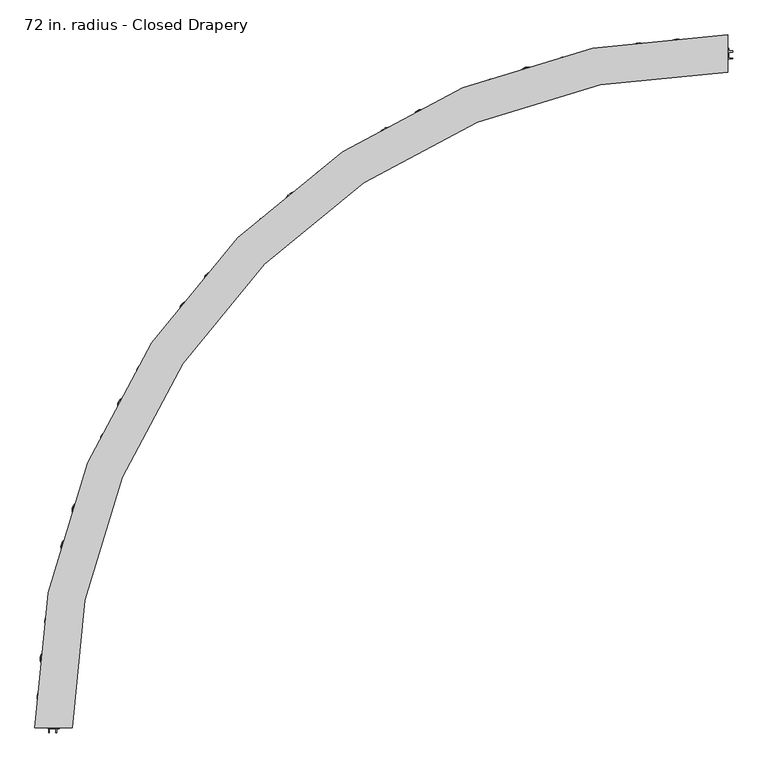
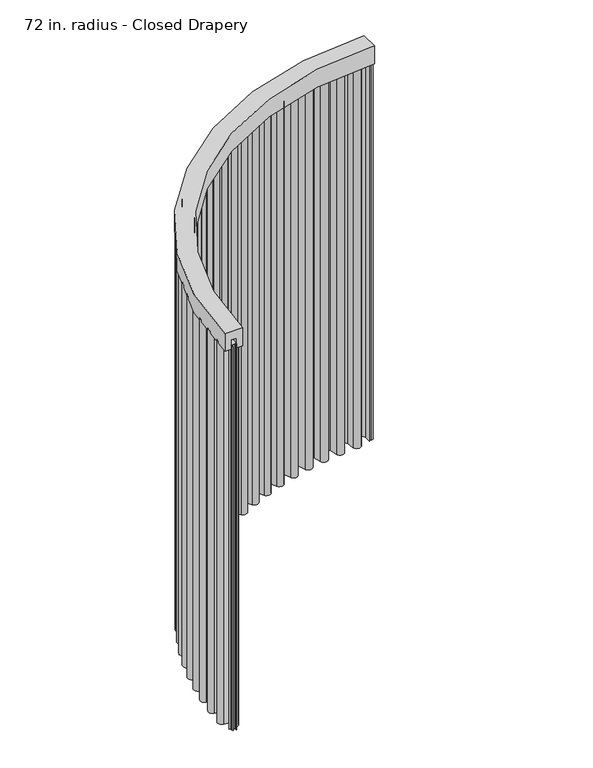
"""IFC4 building model written with IfcOpenShell, lengths in millimetres: furniture geometry, Haworth_Pergola_Drapery_Radial : 72 in. radius - Closed Drapery."""

from ifc_helpers import new_model, si_unit, point, frame, frame_2d, origin, place, context, project, spatial, polyline, circle_curve, trimmed, segment, composite_curve, outline, extrude, source, transform, mapped, element, save
from ifc_brep_helpers import plane_surface, cylinder_surface, revolved_surface, advanced_brep


def furniture_72_in_radius_closed_drapery_8a0c59e8(model_context):
    return source(origin(), model_context, "Body", "SolidModel", [
        advanced_brep(
        [(38.1006913, 1880.0004562, 2438.4), (38.1006913, 1778.4004562, 2438.4), (38.1006913, 1778.4004562, 2331.8390625), (38.1006913, 1813.9821615, 2331.8390625), (38.1006913, 1813.9821615, 2388.7001663), (38.1006913, 1844.418751, 2388.7001663), (38.1006913, 1844.418751, 2331.8390625), (38.1006913, 1880.0004562, 2331.8390625), (-1841.899765, 0.0, 2438.4), (-1841.899765, 0.0, 2331.8390625), (-1806.3180598, 0.0, 2331.8390625), (-1806.3180598, 0.0, 2388.7001663), (-1775.8814702, 0.0, 2388.7001663), (-1775.8814702, 0.0, 2331.8390625), (-1740.299765, 0.0, 2331.8390625), (-1740.299765, 0.0, 2438.4)],
        [
            (0, 1),
            (1, 2),
            (2, 3),
            (3, 4),
            (4, 5),
            (5, 6),
            (6, 7),
            (7, 0),
            (8, 9),
            (9, 10),
            (10, 11),
            (11, 12),
            (12, 13),
            (13, 14),
            (14, 15),
            (15, 8),
            (15, 1, circle_curve(frame((38.1006913, 0.0, 2438.4), z_axis=(0.0, 0.0, -1.0), x_axis=(0.0, 1.0, 0.0)), 1778.4004562)),
            (0, 8, circle_curve(frame((38.1006913, 0.0, 2438.4), z_axis=(0.0, 0.0, 1.0), x_axis=(0.0, 1.0, 0.0)), 1880.0004562)),
            (14, 2, circle_curve(frame((38.1006913, 0.0, 2331.8390625), z_axis=(0.0, 0.0, -1.0), x_axis=(0.0, 1.0, 0.0)), 1778.4004562)),
            (7, 9, circle_curve(frame((38.1006913, 0.0, 2331.8390625), z_axis=(0.0, 0.0, 1.0), x_axis=(0.0, 1.0, 0.0)), 1880.0004562)),
            (13, 3, circle_curve(frame((38.1006913, 0.0, 2331.8390625), z_axis=(0.0, 0.0, -1.0), x_axis=(0.0, 1.0, 0.0)), 1813.9821615)),
            (12, 4, circle_curve(frame((38.1006913, 0.0, 2388.7001663), z_axis=(0.0, 0.0, -1.0), x_axis=(0.0, 1.0, 0.0)), 1813.9821615)),
            (11, 5, circle_curve(frame((38.1006913, 0.0, 2388.7001663), z_axis=(0.0, 0.0, -1.0), x_axis=(0.0, 1.0, 0.0)), 1844.418751)),
            (10, 6, circle_curve(frame((38.1006913, 0.0, 2331.8390625), z_axis=(0.0, 0.0, -1.0), x_axis=(0.0, 1.0, 0.0)), 1844.418751)),
        ],
        [
            plane_surface(frame((38.1006913, 0.0, 2451.1), z_axis=(1.0, 0.0, 0.0), x_axis=(0.0, 1.0, 0.0))),
            plane_surface(frame((38.1006913, 0.0, 2451.1), z_axis=(0.0, -1.0, 0.0), x_axis=(-1.0, 0.0, 0.0))),
            plane_surface(frame((38.1006913, 0.0, 2438.4), z_axis=(0.0, 0.0, 1.0), x_axis=(0.0, 1.0, 0.0))),
            revolved_surface(polyline([(38.1006913, 1778.4004562, 2438.4), (38.1006913, 1778.4004562, 2331.8390625)]), (38.1006913, 0.0, 2451.1), (0.0, 0.0, 1.0)),
            cylinder_surface(frame((38.1006913, 0.0, 2451.1), z_axis=(0.0, 0.0, 1.0), x_axis=(0.0, 1.0, 0.0)), 1880.0004562),
            plane_surface(frame((38.1006913, 0.0, 2331.8390625), z_axis=(0.0, 0.0, -1.0), x_axis=(0.0, 1.0, 0.0))),
            cylinder_surface(frame((38.1006913, 0.0, 2451.1), z_axis=(0.0, 0.0, 1.0), x_axis=(0.0, 1.0, 0.0)), 1813.9821615),
            plane_surface(frame((38.1006913, 0.0, 2388.7001663), z_axis=(0.0, 0.0, -1.0), x_axis=(0.0, 1.0, 0.0))),
            revolved_surface(polyline([(38.1006913, 1844.418751, 2388.7001663), (38.1006913, 1844.418751, 2331.8390625)]), (38.1006913, 0.0, 2451.1), (0.0, 0.0, 1.0)),
        ],
        [
            (0, [[1, 2, 3, 4, 5, 6, 7, 8]]),
            (1, [[9, 10, 11, 12, 13, 14, 15, 16]]),
            (2, [[17, -1, 18, -16]]),
            (3, [[19, -2, -17, -15]]),
            (4, [[-18, -8, 20, -9]]),
            (5, [[21, -3, -19, -14]]),
            (6, [[22, -4, -21, -13]]),
            (7, [[23, -5, -22, -12]]),
            (8, [[24, -6, -23, -11]]),
            (5, [[-20, -7, -24, -10]]),
        ],
    ),
        extrude(outline(composite_curve([segment(polyline([(-1813.2675039, 8.7991729), (-1813.2675039, 9.5929229), (-1772.6295579, 9.5929229)]), True, "CONTINUOUS"), segment(trimmed(circle_curve(frame_2d((-1772.6295579, 32.2004487)), 22.6075258), [point((-1772.6295579, 9.5929229))], [point((-1769.6769803, 54.6143396))], True, "CARTESIAN"), True, "CONTINUOUS"), segment(polyline([(-1769.6769803, 54.6143396), (-1814.6857035, 60.54333)]), True, "CONTINUOUS"), segment(trimmed(circle_curve(frame_2d((-1811.5275882, 84.5175193)), 24.1813036), [point((-1814.6857035, 60.54333))], [point((-1812.4998595, 108.6792688))], False, "CARTESIAN"), True, "CONTINUOUS"), segment(polyline([(-1812.4998595, 108.6792688), (-1767.1091523, 110.5057956)]), True, "CONTINUOUS"), segment(trimmed(circle_curve(frame_2d((-1768.0180469, 133.0925785)), 22.6050625), [point((-1767.1091523, 110.5057956))], [point((-1763.8193529, 155.3042831))], True, "CARTESIAN"), True, "CONTINUOUS"), segment(polyline([(-1763.8193529, 155.3042831), (-1808.286458, 163.7099309)]), True, "CONTINUOUS"), segment(trimmed(circle_curve(frame_2d((-1803.7922369, 187.4850177)), 24.1961314), [point((-1808.286458, 163.7099309))], [point((-1803.4140194, 211.6781929))], False, "CARTESIAN"), True, "CONTINUOUS"), segment(polyline([(-1803.4140194, 211.6781929), (-1758.1420693, 210.9704462)]), True, "CONTINUOUS"), segment(trimmed(circle_curve(frame_2d((-1757.788763, 233.5701509)), 22.6024662), [point((-1758.1420693, 210.9704462))], [point((-1752.3573521, 255.5103253))], True, "CARTESIAN"), True, "CONTINUOUS"), segment(polyline([(-1752.3573521, 255.5103253), (-1796.4292649, 266.4205699)]), True, "CONTINUOUS"), segment(trimmed(circle_curve(frame_2d((-1790.6174697, 289.897306)), 24.1854108), [point((-1796.4292649, 266.4205699))], [point((-1788.8901204, 314.0209533))], False, "CARTESIAN"), True, "CONTINUOUS"), segment(polyline([(-1788.8901204, 314.0209533), (-1743.5851539, 310.7769372)]), True, "CONTINUOUS"), segment(trimmed(circle_curve(frame_2d((-1741.9710116, 333.3195691)), 22.6003475), [point((-1743.5851539, 310.7769372))], [point((-1735.3239561, 354.9203182))], True, "CARTESIAN"), True, "CONTINUOUS"), segment(polyline([(-1735.3239561, 354.9203182), (-1778.5125348, 368.2104535)]), True, "CONTINUOUS"), segment(trimmed(circle_curve(frame_2d((-1771.3933974, 391.345314)), 24.2054516), [point((-1778.5125348, 368.2104535))], [point((-1768.3195733, 415.3548016))], False, "CARTESIAN"), True, "CONTINUOUS"), segment(polyline([(-1768.3195733, 415.3548016), (-1723.5637359, 409.6249178)]), True, "CONTINUOUS"), segment(trimmed(circle_curve(frame_2d((-1720.6927841, 432.0497797)), 22.6078923), [point((-1723.5637359, 409.6249178))], [point((-1712.8477053, 453.2528817))], True, "CARTESIAN"), True, "CONTINUOUS"), segment(polyline([(-1712.8477053, 453.2528817), (-1755.3793884, 468.9894662)]), True, "CONTINUOUS"), segment(trimmed(circle_curve(frame_2d((-1746.9867429, 491.6724911)), 24.1858661), [point((-1755.3793884, 468.9894662))], [point((-1742.5810222, 515.4536967))], False, "CARTESIAN"), True, "CONTINUOUS"), segment(polyline([(-1742.5810222, 515.4536967), (-1697.7640357, 507.1508743)]), True, "CONTINUOUS"), segment(trimmed(circle_curve(frame_2d((-1693.6505392, 529.3547116)), 22.5816572), [point((-1697.7640357, 507.1508743))], [point((-1684.644538, 550.0627581))], True, "CARTESIAN"), True, "CONTINUOUS"), segment(polyline([(-1684.644538, 550.0627581), (-1726.3426429, 568.1974083)]), True, "CONTINUOUS"), segment(trimmed(circle_curve(frame_2d((-1716.6931292, 590.3851225)), 24.1952015), [point((-1726.3426429, 568.1974083))], [point((-1710.9645402, 613.8923776))], False, "CARTESIAN"), True, "CONTINUOUS"), segment(polyline([(-1710.9645402, 613.8923776), (-1667.1292609, 603.2099608)]), True, "CONTINUOUS"), segment(trimmed(circle_curve(frame_2d((-1661.7731813, 625.1886241)), 22.621875), [point((-1667.1292609, 603.2099608))], [point((-1651.6072198, 645.3975937))], True, "CARTESIAN"), True, "CONTINUOUS"), segment(polyline([(-1651.6072198, 645.3975937), (-1691.7651569, 665.5987249)]), True, "CONTINUOUS"), segment(trimmed(circle_curve(frame_2d((-1680.8857945, 687.2258679)), 24.209375), [point((-1691.7651569, 665.5987249))], [point((-1673.8498546, 710.390267))], False, "CARTESIAN"), True, "CONTINUOUS"), segment(polyline([(-1673.8498546, 710.390267), (-1630.8375466, 697.3257357)]), True, "CONTINUOUS"), segment(trimmed(circle_curve(frame_2d((-1624.2629798, 718.9711579)), 22.621875), [point((-1630.8375466, 697.3257357))], [point((-1612.9847645, 738.5811321))], True, "CARTESIAN"), True, "CONTINUOUS"), segment(polyline([(-1612.9847645, 738.5811321), (-1651.9526335, 760.9925851)]), True, "CONTINUOUS"), segment(trimmed(circle_curve(frame_2d((-1639.8829645, 781.9786979)), 24.209375), [point((-1651.9526335, 760.9925851))], [point((-1631.564904, 804.7142143))], False, "CARTESIAN"), True, "CONTINUOUS"), segment(polyline([(-1631.564904, 804.7142143), (-1589.3483107, 789.268769)]), True, "CONTINUOUS"), segment(trimmed(circle_curve(frame_2d((-1581.5756968, 810.5134319)), 22.621875), [point((-1589.3483107, 789.268769))], [point((-1569.2204104, 829.4632637))], True, "CARTESIAN"), True, "CONTINUOUS"), segment(polyline([(-1569.2204104, 829.4632637), (-1606.8765453, 854.0150556)]), True, "CONTINUOUS"), segment(trimmed(circle_curve(frame_2d((-1593.6542213, 874.2947002)), 24.209375), [point((-1606.8765453, 854.0150556))], [point((-1584.0799774, 896.5304303))], False, "CARTESIAN"), True, "CONTINUOUS"), segment(polyline([(-1584.0799774, 896.5304303), (-1542.7920826, 878.7527196)]), True, "CONTINUOUS"), segment(trimmed(circle_curve(frame_2d((-1533.8456579, 899.5303691)), 22.621875), [point((-1542.7920826, 878.7527196))], [point((-1520.4517928, 917.7609369))], True, "CARTESIAN"), True, "CONTINUOUS"), segment(polyline([(-1520.4517928, 917.7609369), (-1556.6783212, 944.3763028)]), True, "CONTINUOUS"), segment(trimmed(circle_curve(frame_2d((-1542.3445357, 963.8862088)), 24.209375), [point((-1556.6783212, 944.3763028))], [point((-1531.5440207, 985.5528355))], False, "CARTESIAN"), True, "CONTINUOUS"), segment(polyline([(-1531.5440207, 985.5528355), (-1491.3127076, 965.49808)]), True, "CONTINUOUS"), segment(trimmed(circle_curve(frame_2d((-1481.220423, 985.7439443)), 22.621875), [point((-1491.3127076, 965.49808))], [point((-1466.8298301, 1003.1984584))], True, "CARTESIAN"), True, "CONTINUOUS"), segment(polyline([(-1466.8298301, 1003.1984584), (-1501.5145614, 1031.7947198)]), True, "CONTINUOUS"), segment(trimmed(circle_curve(frame_2d((-1486.1141024, 1050.4741121)), 24.209375), [point((-1501.5145614, 1031.7947198))], [point((-1474.1209556, 1071.5040495))], False, "CARTESIAN"), True, "CONTINUOUS"), segment(polyline([(-1474.1209556, 1071.5040495), (-1435.0715605, 1049.2346001)]), True, "CONTINUOUS"), segment(trimmed(circle_curve(frame_2d((-1423.8648496, 1068.8855253)), 22.621875), [point((-1435.0715605, 1049.2346001))], [point((-1408.5223554, 1085.509517))], True, "CARTESIAN"), True, "CONTINUOUS"), segment(polyline([(-1408.5223554, 1085.509517), (-1441.5564396, 1115.9970949)]), True, "CONTINUOUS"), segment(trimmed(circle_curve(frame_2d((-1425.1372792, 1133.7876826)), 24.209375), [point((-1441.5564396, 1115.9970949))], [point((-1411.9889102, 1154.1153541))], False, "CARTESIAN"), True, "CONTINUOUS"), segment(polyline([(-1411.9889102, 1154.1153541), (-1374.2437703, 1129.7009971)]), True, "CONTINUOUS"), segment(trimmed(circle_curve(frame_2d((-1361.9575893, 1148.6957065)), 22.621875), [point((-1374.2437703, 1129.7009971))], [point((-1345.7110388, 1164.4373336))], True, "CARTESIAN"), True, "CONTINUOUS"), segment(polyline([(-1345.7110388, 1164.4373336), (-1376.9916265, 1196.7212674)]), True, "CONTINUOUS"), segment(trimmed(circle_curve(frame_2d((-1359.6049671, 1213.5675701)), 24.209375), [point((-1376.9916265, 1196.7212674))], [point((-1345.3423961, 1233.1295973))], False, "CARTESIAN"), True, "CONTINUOUS"), segment(polyline([(-1345.3423961, 1233.1295973), (-1309.0188842, 1206.6463159)]), True, "CONTINUOUS"), segment(trimmed(circle_curve(frame_2d((-1295.6915637, 1224.9255872)), 22.621875), [point((-1309.0188842, 1206.6463159))], [point((-1278.5916131, 1239.7357497))], True, "CARTESIAN"), True, "CONTINUOUS"), segment(polyline([(-1278.5916131, 1239.7357497), (-1308.0214637, 1273.7157274)]), True, "CONTINUOUS"), segment(trimmed(circle_curve(frame_2d((-1289.7215165, 1289.5651997)), 24.209375), [point((-1308.0214637, 1273.7157274))], [point((-1274.3891813, 1308.3005495))], False, "CARTESIAN"), True, "CONTINUOUS"), segment(polyline([(-1274.3891813, 1308.3005495), (-1239.6008033, 1279.8309945)]), True, "CONTINUOUS"), segment(trimmed(circle_curve(frame_2d((-1225.2738671, 1297.3377968)), 22.621875), [point((-1239.6008033, 1279.8309945))], [point((-1207.3738537, 1311.1703218))], True, "CARTESIAN"), True, "CONTINUOUS"), segment(polyline([(-1207.3738537, 1311.1703218), (-1234.8608729, 1346.7399672)]), True, "CONTINUOUS"), segment(trimmed(circle_curve(frame_2d((-1215.7047182, 1361.5431958)), 24.209375), [point((-1234.8608729, 1346.7399672))], [point((-1199.3504829, 1379.393485))], False, "CARTESIAN"), True, "CONTINUOUS"), segment(polyline([(-1199.3504829, 1379.393485), (-1166.2058206, 1349.0267163)]), True, "CONTINUOUS"), segment(trimmed(circle_curve(frame_2d((-1150.9239942, 1365.7064948)), 22.621875), [point((-1166.2058206, 1349.0267163))], [point((-1132.279733, 1378.5182376))], True, "CARTESIAN"), True, "CONTINUOUS"), segment(polyline([(-1132.279733, 1378.5182376), (-1157.738412, 1415.5669253)]), True, "CONTINUOUS"), segment(trimmed(circle_curve(frame_2d((-1137.7857816, 1429.2777378)), 24.209375), [point((-1157.738412, 1415.5669253))], [point((-1120.4605652, 1446.1872237))], False, "CARTESIAN"), True, "CONTINUOUS"), segment(polyline([(-1120.4605652, 1446.1872237), (-1089.062185, 1414.0168941)]), True, "CONTINUOUS"), segment(trimmed(circle_curve(frame_2d((-1072.8730483, 1429.8175613)), 22.621875), [point((-1089.062185, 1414.0168941))], [point((-1053.5426951, 1441.5685899))], True, "CARTESIAN"), True, "CONTINUOUS"), segment(polyline([(-1053.5426951, 1441.5685899), (-1076.8938403, 1479.9810469)]), True, "CONTINUOUS"), segment(trimmed(circle_curve(frame_2d((-1056.2069711, 1492.5567091)), 24.209375), [point((-1076.8938403, 1479.9810469))], [point((-1037.9648725, 1508.4727287))], False, "CARTESIAN"), True, "CONTINUOUS"), segment(polyline([(-1037.9648725, 1508.4727287), (-1008.4114706, 1474.6001849)]), True, "CONTINUOUS"), segment(trimmed(circle_curve(frame_2d((-991.3655753, 1489.4725311)), 22.621875), [point((-1008.4114706, 1474.6001849))], [point((-971.4093961, 1500.1261756))], True, "CARTESIAN"), True, "CONTINUOUS"), segment(polyline([(-971.4093961, 1500.1261756), (-992.5797144, 1539.7819631)]), True, "CONTINUOUS"), segment(trimmed(circle_curve(frame_2d((-971.2231016, 1551.1832318)), 24.209375), [point((-992.5797144, 1539.7819631))], [point((-952.1210116, 1566.0561601))], False, "CARTESIAN"), True, "CONTINUOUS"), segment(polyline([(-952.1210116, 1566.0561601), (-924.5043905, 1530.5866701)]), True, "CONTINUOUS"), segment(trimmed(circle_curve(frame_2d((-906.6548966, 1544.4843244)), 22.621875), [point((-924.5043905, 1530.5866701))], [point((-886.1351386, 1554.007389))], True, "CARTESIAN"), True, "CONTINUOUS"), segment(polyline([(-886.1351386, 1554.007389), (-905.0586836, 1594.7827672)]), True, "CONTINUOUS"), segment(trimmed(circle_curve(frame_2d((-883.0989426, 1604.9741171)), 24.209375), [point((-905.0586836, 1594.7827672))], [point((-863.1964067, 1618.7575457))], False, "CARTESIAN"), True, "CONTINUOUS"), segment(polyline([(-863.1964067, 1618.7575457), (-837.6029731, 1581.8019925)]), True, "CONTINUOUS"), segment(trimmed(circle_curve(frame_2d((-819.0055215, 1594.6815897)), 22.621875), [point((-837.6029731, 1581.8019925))], [point((-797.9861596, 1603.0443436))], True, "CARTESIAN"), True, "CONTINUOUS"), segment(polyline([(-797.9861596, 1603.0443436), (-814.6040421, 1644.8125569)]), True, "CONTINUOUS"), segment(trimmed(circle_curve(frame_2d((-792.1096373, 1653.7621707)), 24.209375), [point((-814.6040421, 1644.8125569))], [point((-771.4687111, 1666.4130998))], False, "CARTESIAN"), True, "CONTINUOUS"), segment(polyline([(-771.4687111, 1666.4130998), (-747.9778893, 1628.0860872)]), True, "CONTINUOUS"), segment(trimmed(circle_curve(frame_2d((-728.6904665, 1639.9074471)), 22.621875), [point((-747.9778893, 1628.0860872))], [point((-707.2370656, 1647.0838541))], True, "CARTESIAN"), True, "CONTINUOUS"), segment(polyline([(-707.2370656, 1647.0838541), (-721.4975431, 1689.7146217)]), True, "CONTINUOUS"), segment(trimmed(circle_curve(frame_2d((-698.5386403, 1697.3946363)), 24.209375), [point((-721.4975431, 1689.7146217))], [point((-677.2237153, 1708.8736523))], False, "CARTESIAN"), True, "CONTINUOUS"), segment(polyline([(-677.2237153, 1708.8736523), (-655.9091491, 1669.2954882)]), True, "CONTINUOUS"), segment(trimmed(circle_curve(frame_2d((-635.9919241, 1680.0217819)), 22.621875), [point((-655.9091491, 1669.2954882))], [point((-614.1713746, 1685.9894323))], True, "CARTESIAN"), True, "CONTINUOUS"), segment(polyline([(-614.1713746, 1685.9894323), (-626.0299477, 1729.3499784)]), True, "CONTINUOUS"), segment(trimmed(circle_curve(frame_2d((-602.6781317, 1735.7364113)), 24.209375), [point((-626.0299477, 1729.3499784))], [point((-580.7556498, 1746.0076636))], False, "CARTESIAN"), True, "CONTINUOUS"), segment(polyline([(-580.7556498, 1746.0076636), (-561.6835639, 1705.3010932)]), True, "CONTINUOUS"), segment(trimmed(circle_curve(frame_2d((-541.1986218, 1714.8988209)), 22.621875), [point((-561.6835639, 1705.3010932))], [point((-519.0789674, 1719.6390866))], True, "CARTESIAN"), True, "CONTINUOUS"), segment(polyline([(-519.0789674, 1719.6390866), (-528.498553, 1763.5940017)]), True, "CONTINUOUS"), segment(trimmed(circle_curve(frame_2d((-504.8266421, 1768.6669176)), 24.209375), [point((-528.498553, 1763.5940017))], [point((-482.3649866, 1777.6984107))], False, "CARTESIAN"), True, "CONTINUOUS"), segment(polyline([(-482.3649866, 1777.6984107), (-465.5949678, 1735.9907572)]), True, "CONTINUOUS"), segment(trimmed(circle_curve(frame_2d((-444.6062077, 1744.4300213)), 22.621875), [point((-465.5949678, 1735.9907572))], [point((-422.2564376, 1747.9281644))], True, "CARTESIAN"), True, "CONTINUOUS"), segment(polyline([(-422.2564376, 1747.9281644), (-429.2077427, 1792.3403186)]), True, "CONTINUOUS"), segment(trimmed(circle_curve(frame_2d((-405.2895677, 1796.0839454)), 24.209375), [point((-429.2077427, 1792.3403186))], [point((-382.3587904, 1803.8475328))], False, "CARTESIAN"), True, "CONTINUOUS"), segment(polyline([(-382.3587904, 1803.8475328), (-367.9431125, 1761.2689311)]), True, "CONTINUOUS"), segment(trimmed(circle_curve(frame_2d((-346.5159927, 1768.5234308)), 22.621875), [point((-367.9431125, 1761.2689311))], [point((-324.0057991, 1770.7685167))], True, "CARTESIAN"), True, "CONTINUOUS"), segment(polyline([(-324.0057991, 1770.7685167), (-328.467077, 1815.4992011)]), True, "CONTINUOUS"), segment(trimmed(circle_curve(frame_2d((-304.3772207, 1817.9018369)), 24.209375), [point((-328.467077, 1815.4992011))], [point((-281.0488231, 1824.3732901))], False, "CARTESIAN"), True, "CONTINUOUS"), segment(polyline([(-281.0488231, 1824.3732901), (-269.0323872, 1781.0562501)]), True, "CONTINUOUS"), segment(trimmed(circle_curve(frame_2d((-247.2337206, 1787.1033457)), 22.621875), [point((-269.0323872, 1781.0562501))], [point((-224.6333019, 1788.0883838))], True, "CARTESIAN"), True, "CONTINUOUS"), segment(polyline([(-224.6333019, 1788.0883838), (-226.5907125, 1832.9986255)]), True, "CONTINUOUS"), segment(trimmed(circle_curve(frame_2d((-202.4042994, 1834.0527891)), 24.209375), [point((-226.5907125, 1832.9986255))], [point((-178.7510289, 1839.2119199))], False, "CARTESIAN"), True, "CONTINUOUS"), segment(polyline([(-178.7510289, 1839.2119199), (-169.1713628, 1795.2916473)]), True, "CONTINUOUS"), segment(trimmed(circle_curve(frame_2d((-147.0691264, 1800.1124745)), 22.621875), [point((-169.1713628, 1795.2916473))], [point((-124.4489607, 1799.834385))], True, "CARTESIAN"), True, "CONTINUOUS"), segment(polyline([(-124.4489607, 1799.834385), (-123.8963582, 1844.7837917)]), True, "CONTINUOUS"), segment(trimmed(circle_curve(frame_2d((-99.6888125, 1844.4861871)), 24.209375), [point((-123.8963582, 1844.7837917))], [point((-75.7844324, 1848.3169115))], False, "CARTESIAN"), True, "CONTINUOUS"), segment(polyline([(-75.7844324, 1848.3169115), (-68.6714093, 1803.9304224)]), True, "CONTINUOUS"), segment(trimmed(circle_curve(frame_2d((-46.3345295, 1807.5099517)), 22.621875), [point((-68.6714093, 1803.9304224))], [point((-23.7651576, 1805.9696015))], True, "CARTESIAN"), True, "CONTINUOUS"), segment(polyline([(-23.7651576, 1805.9696015), (-20.7230836, 1850.5423857)]), True, "CONTINUOUS"), segment(trimmed(circle_curve(frame_2d((3.4301039, 1848.8939406)), 24.209375), [point((-20.7230836, 1850.5423857))], [point((27.6394789, 1848.8939406))], False, "CARTESIAN"), True, "CONTINUOUS"), segment(polyline([(27.6394789, 1848.8939406), (27.6394789, 1809.2121951), (26.8457289, 1809.2121951), (26.8457289, 1848.8939406)]), True, "CONTINUOUS"), segment(trimmed(circle_curve(frame_2d((3.4301039, 1848.8939406)), 23.415625), [point((26.8457289, 1848.8939406))], [point((-19.9311758, 1850.4883383))], True, "CARTESIAN"), True, "CONTINUOUS"), segment(polyline([(-19.9311758, 1850.4883383), (-22.9732498, 1805.9155541)]), True, "CONTINUOUS"), segment(trimmed(circle_curve(frame_2d((-46.3345295, 1807.5099517)), 23.415625), [point((-22.9732498, 1805.9155541))], [point((-69.4551595, 1803.8048249))], False, "CARTESIAN"), True, "CONTINUOUS"), segment(polyline([(-69.4551595, 1803.8048249), (-76.5681825, 1848.1913139)]), True, "CONTINUOUS"), segment(trimmed(circle_curve(frame_2d((-99.6888125, 1844.4861871)), 23.415625), [point((-76.5681825, 1848.1913139))], [point((-123.1026682, 1844.7740341))], True, "CARTESIAN"), True, "CONTINUOUS"), segment(polyline([(-123.1026682, 1844.7740341), (-123.6552707, 1799.8246275)]), True, "CONTINUOUS"), segment(trimmed(circle_curve(frame_2d((-147.0691264, 1800.1124745)), 23.415625), [point((-123.6552707, 1799.8246275))], [point((-169.9468798, 1795.1224955))], False, "CARTESIAN"), True, "CONTINUOUS"), segment(polyline([(-169.9468798, 1795.1224955), (-179.526546, 1839.0427681)]), True, "CONTINUOUS"), segment(trimmed(circle_curve(frame_2d((-202.4042994, 1834.0527891)), 23.415625), [point((-179.526546, 1839.0427681))], [point((-225.7977153, 1833.0331882))], True, "CARTESIAN"), True, "CONTINUOUS"), segment(polyline([(-225.7977153, 1833.0331882), (-223.8403047, 1788.1229466)]), True, "CONTINUOUS"), segment(trimmed(circle_curve(frame_2d((-247.2337206, 1787.1033457)), 23.415625), [point((-223.8403047, 1788.1229466))], [point((-269.7972527, 1780.8440713))], False, "CARTESIAN"), True, "CONTINUOUS"), segment(polyline([(-269.7972527, 1780.8440713), (-281.8136886, 1824.1611113)]), True, "CONTINUOUS"), segment(trimmed(circle_curve(frame_2d((-304.3772207, 1817.9018369)), 23.415625), [point((-281.8136886, 1824.1611113))], [point((-327.6772457, 1815.577976))], True, "CARTESIAN"), True, "CONTINUOUS"), segment(polyline([(-327.6772457, 1815.577976), (-323.2159677, 1770.8472917)]), True, "CONTINUOUS"), segment(trimmed(circle_curve(frame_2d((-346.5159927, 1768.5234308)), 23.415625), [point((-323.2159677, 1770.8472917))], [point((-368.6949413, 1761.0143872))], False, "CARTESIAN"), True, "CONTINUOUS"), segment(polyline([(-368.6949413, 1761.0143872), (-383.1106191, 1803.592989)]), True, "CONTINUOUS"), segment(trimmed(circle_curve(frame_2d((-405.2895677, 1796.0839454)), 23.415625), [point((-383.1106191, 1803.592989))], [point((-428.4235402, 1792.4630604))], True, "CARTESIAN"), True, "CONTINUOUS"), segment(polyline([(-428.4235402, 1792.4630604), (-421.4722351, 1748.0509062)]), True, "CONTINUOUS"), segment(trimmed(circle_curve(frame_2d((-444.6062077, 1744.4300213)), 23.415625), [point((-421.4722351, 1748.0509062))], [point((-466.3314155, 1735.6946427))], False, "CARTESIAN"), True, "CONTINUOUS"), segment(polyline([(-466.3314155, 1735.6946427), (-483.1014343, 1777.4022962)]), True, "CONTINUOUS"), segment(trimmed(circle_curve(frame_2d((-504.8266421, 1768.6669176)), 23.415625), [point((-483.1014343, 1777.4022962))], [point((-527.7224247, 1763.7603268))], True, "CARTESIAN"), True, "CONTINUOUS"), segment(polyline([(-527.7224247, 1763.7603268), (-518.3028392, 1719.8054117)]), True, "CONTINUOUS"), segment(trimmed(circle_curve(frame_2d((-541.1986218, 1714.8988209)), 23.415625), [point((-518.3028392, 1719.8054117))], [point((-562.4023338, 1704.9643309))], False, "CARTESIAN"), True, "CONTINUOUS"), segment(polyline([(-562.4023338, 1704.9643309), (-581.4744197, 1745.6709013)]), True, "CONTINUOUS"), segment(trimmed(circle_curve(frame_2d((-602.6781317, 1735.7364113)), 23.415625), [point((-581.4744197, 1745.6709013))], [point((-625.2643144, 1729.5593696))], True, "CARTESIAN"), True, "CONTINUOUS"), segment(polyline([(-625.2643144, 1729.5593696), (-613.4057413, 1686.1988235)]), True, "CONTINUOUS"), segment(trimmed(circle_curve(frame_2d((-635.9919241, 1680.0217819)), 23.415625), [point((-613.4057413, 1686.1988235))], [point((-656.6079991, 1668.919127))], False, "CARTESIAN"), True, "CONTINUOUS"), segment(polyline([(-656.6079991, 1668.919127), (-677.9225653, 1708.4972911)]), True, "CONTINUOUS"), segment(trimmed(circle_curve(frame_2d((-698.5386403, 1697.3946363)), 23.415625), [point((-677.9225653, 1708.4972911))], [point((-720.7447921, 1689.9664255))], True, "CARTESIAN"), True, "CONTINUOUS"), segment(polyline([(-720.7447921, 1689.9664255), (-706.4843147, 1647.3356579)]), True, "CONTINUOUS"), segment(trimmed(circle_curve(frame_2d((-728.6904665, 1639.9074471)), 23.415625), [point((-706.4843147, 1647.3356579))], [point((-748.654641, 1627.6713026))], False, "CARTESIAN"), True, "CONTINUOUS"), segment(polyline([(-748.654641, 1627.6713026), (-772.1454628, 1665.9983152)]), True, "CONTINUOUS"), segment(trimmed(circle_curve(frame_2d((-792.1096373, 1653.7621707)), 23.415625), [point((-772.1454628, 1665.9983152))], [point((-813.8665207, 1645.1059869))], True, "CARTESIAN"), True, "CONTINUOUS"), segment(polyline([(-813.8665207, 1645.1059869), (-797.2486381, 1603.3377735)]), True, "CONTINUOUS"), segment(trimmed(circle_curve(frame_2d((-819.0055215, 1594.6815897)), 23.415625), [point((-797.2486381, 1603.3377735))], [point((-838.2555152, 1581.3500768))], False, "CARTESIAN"), True, "CONTINUOUS"), segment(polyline([(-838.2555152, 1581.3500768), (-863.8489489, 1618.30563)]), True, "CONTINUOUS"), segment(trimmed(circle_curve(frame_2d((-883.0989426, 1604.9741171)), 23.415625), [point((-863.8489489, 1618.30563))], [point((-904.3386921, 1595.1169098))], True, "CARTESIAN"), True, "CONTINUOUS"), segment(polyline([(-904.3386921, 1595.1169098), (-885.4151471, 1554.3415317)]), True, "CONTINUOUS"), segment(trimmed(circle_curve(frame_2d((-906.6548966, 1544.4843244)), 23.415625), [point((-885.4151471, 1554.3415317))], [point((-925.1306886, 1530.0990331))], False, "CARTESIAN"), True, "CONTINUOUS"), segment(polyline([(-925.1306886, 1530.0990331), (-952.7473097, 1565.5685231)]), True, "CONTINUOUS"), segment(trimmed(circle_curve(frame_2d((-971.2231016, 1551.1832318)), 23.415625), [point((-952.7473097, 1565.5685231))], [point((-991.8794976, 1540.1557751))], True, "CARTESIAN"), True, "CONTINUOUS"), segment(polyline([(-991.8794976, 1540.1557751), (-970.7091793, 1500.4999877)]), True, "CONTINUOUS"), segment(trimmed(circle_curve(frame_2d((-991.3655753, 1489.4725311)), 23.415625), [point((-970.7091793, 1500.4999877))], [point((-1009.0095722, 1474.0783482))], False, "CARTESIAN"), True, "CONTINUOUS"), segment(polyline([(-1009.0095722, 1474.0783482), (-1038.5629741, 1507.950892)]), True, "CONTINUOUS"), segment(trimmed(circle_curve(frame_2d((-1056.2069711, 1492.5567091)), 23.415625), [point((-1038.5629741, 1507.950892))], [point((-1076.2155822, 1480.3933637))], True, "CARTESIAN"), True, "CONTINUOUS"), segment(polyline([(-1076.2155822, 1480.3933637), (-1052.8644371, 1441.9809067)]), True, "CONTINUOUS"), segment(trimmed(circle_curve(frame_2d((-1072.8730483, 1429.8175613)), 23.415625), [point((-1052.8644371, 1441.9809067))], [point((-1089.6302249, 1413.4624848))], False, "CARTESIAN"), True, "CONTINUOUS"), segment(polyline([(-1089.6302249, 1413.4624848), (-1121.028605, 1445.6328143)]), True, "CONTINUOUS"), segment(trimmed(circle_curve(frame_2d((-1137.7857816, 1429.2777378)), 23.415625), [point((-1121.028605, 1445.6328143))], [point((-1157.0842274, 1416.0164601))], True, "CARTESIAN"), True, "CONTINUOUS"), segment(polyline([(-1157.0842274, 1416.0164601), (-1131.6255484, 1378.9677725)]), True, "CONTINUOUS"), segment(trimmed(circle_curve(frame_2d((-1150.9239942, 1365.7064948)), 23.415625), [point((-1131.6255484, 1378.9677725))], [point((-1166.742025, 1348.4414609))], False, "CARTESIAN"), True, "CONTINUOUS"), segment(polyline([(-1166.742025, 1348.4414609), (-1199.8866874, 1378.8082296)]), True, "CONTINUOUS"), segment(trimmed(circle_curve(frame_2d((-1215.7047182, 1361.5431958)), 23.415625), [point((-1199.8866874, 1378.8082296))], [point((-1234.2328022, 1347.2253189))], True, "CARTESIAN"), True, "CONTINUOUS"), segment(polyline([(-1234.2328022, 1347.2253189), (-1206.7457831, 1311.6556736)]), True, "CONTINUOUS"), segment(trimmed(circle_curve(frame_2d((-1225.2738671, 1297.3377968)), 23.415625), [point((-1206.7457831, 1311.6556736))], [point((-1240.1035028, 1279.2167207))], False, "CARTESIAN"), True, "CONTINUOUS"), segment(polyline([(-1240.1035028, 1279.2167207), (-1274.8918808, 1307.6862757)]), True, "CONTINUOUS"), segment(trimmed(circle_curve(frame_2d((-1289.7215165, 1289.5651997)), 23.415625), [point((-1274.8918808, 1307.6862757))], [point((-1307.4214654, 1274.2353823))], True, "CARTESIAN"), True, "CONTINUOUS"), segment(polyline([(-1307.4214654, 1274.2353823), (-1277.9916148, 1240.2554046)]), True, "CONTINUOUS"), segment(trimmed(circle_curve(frame_2d((-1295.6915637, 1224.9255872)), 23.415625), [point((-1277.9916148, 1240.2554046))], [point((-1309.4865095, 1206.004938))], False, "CARTESIAN"), True, "CONTINUOUS"), segment(polyline([(-1309.4865095, 1206.004938), (-1345.8100214, 1232.4882193)]), True, "CONTINUOUS"), segment(trimmed(circle_curve(frame_2d((-1359.6049671, 1213.5675701)), 23.415625), [point((-1345.8100214, 1232.4882193))], [point((-1376.4215721, 1197.2736052))], True, "CARTESIAN"), True, "CONTINUOUS"), segment(polyline([(-1376.4215721, 1197.2736052), (-1345.1409844, 1164.9896714)]), True, "CONTINUOUS"), segment(trimmed(circle_curve(frame_2d((-1361.9575893, 1148.6957065)), 23.415625), [point((-1345.1409844, 1164.9896714))], [point((-1374.6748643, 1129.034516))], False, "CARTESIAN"), True, "CONTINUOUS"), segment(polyline([(-1374.6748643, 1129.034516), (-1412.4200042, 1153.4488731)]), True, "CONTINUOUS"), segment(trimmed(circle_curve(frame_2d((-1425.1372792, 1133.7876826)), 23.415625), [point((-1412.4200042, 1153.4488731))], [point((-1441.0181065, 1116.5803929))], True, "CARTESIAN"), True, "CONTINUOUS"), segment(polyline([(-1441.0181065, 1116.5803929), (-1407.9840223, 1086.092815)]), True, "CONTINUOUS"), segment(trimmed(circle_curve(frame_2d((-1423.8648496, 1068.8855253)), 23.415625), [point((-1407.9840223, 1086.092815))], [point((-1435.4647784, 1048.545094))], False, "CARTESIAN"), True, "CONTINUOUS"), segment(polyline([(-1435.4647784, 1048.545094), (-1474.5141735, 1070.8145434)]), True, "CONTINUOUS"), segment(trimmed(circle_curve(frame_2d((-1486.1141024, 1050.4741121)), 23.415625), [point((-1474.5141735, 1070.8145434))], [point((-1501.0096283, 1032.4071589))], True, "CARTESIAN"), True, "CONTINUOUS"), segment(polyline([(-1501.0096283, 1032.4071589), (-1466.324897, 1003.8108975)]), True, "CONTINUOUS"), segment(trimmed(circle_curve(frame_2d((-1481.220423, 985.7439443)), 23.415625), [point((-1466.324897, 1003.8108975))], [point((-1491.6668228, 964.7876988))], False, "CARTESIAN"), True, "CONTINUOUS"), segment(polyline([(-1491.6668228, 964.7876988), (-1531.8981359, 984.8424543)]), True, "CONTINUOUS"), segment(trimmed(circle_curve(frame_2d((-1542.3445357, 963.8862088)), 23.415625), [point((-1531.8981359, 984.8424543))], [point((-1556.208361, 945.0159719))], True, "CARTESIAN"), True, "CONTINUOUS"), segment(polyline([(-1556.208361, 945.0159719), (-1519.9818326, 918.400606)]), True, "CONTINUOUS"), segment(trimmed(circle_curve(frame_2d((-1533.8456579, 899.5303691)), 23.415625), [point((-1519.9818326, 918.400606))], [point((-1543.1059922, 878.0236793))], False, "CARTESIAN"), True, "CONTINUOUS"), segment(polyline([(-1543.1059922, 878.0236793), (-1584.3938871, 895.80139)]), True, "CONTINUOUS"), segment(trimmed(circle_curve(frame_2d((-1593.6542213, 874.2947002)), 23.415625), [point((-1584.3938871, 895.80139))], [point((-1606.4430265, 854.679962))], True, "CARTESIAN"), True, "CONTINUOUS"), segment(polyline([(-1606.4430265, 854.679962), (-1568.7868916, 830.1281701)]), True, "CONTINUOUS"), segment(trimmed(circle_curve(frame_2d((-1581.5756968, 810.5134319)), 23.415625), [point((-1568.7868916, 830.1281701))], [point((-1589.621034, 788.5233422))], False, "CARTESIAN"), True, "CONTINUOUS"), segment(polyline([(-1589.621034, 788.5233422), (-1631.8376273, 803.9687876)]), True, "CONTINUOUS"), segment(trimmed(circle_curve(frame_2d((-1639.8829645, 781.9786979)), 23.415625), [point((-1631.8376273, 803.9687876))], [point((-1651.5569066, 761.6806544))], True, "CARTESIAN"), True, "CONTINUOUS"), segment(polyline([(-1651.5569066, 761.6806544), (-1612.5890376, 739.2692013)]), True, "CONTINUOUS"), segment(trimmed(circle_curve(frame_2d((-1624.2629798, 718.9711579)), 23.415625), [point((-1612.5890376, 739.2692013))], [point((-1631.0682332, 696.5662472))], False, "CARTESIAN"), True, "CONTINUOUS"), segment(polyline([(-1631.0682332, 696.5662472), (-1674.0805411, 709.6307785)]), True, "CONTINUOUS"), segment(trimmed(circle_curve(frame_2d((-1680.8857945, 687.2258679)), 23.415625), [point((-1674.0805411, 709.6307785))], [point((-1691.4084565, 666.3078116))], True, "CARTESIAN"), True, "CONTINUOUS"), segment(polyline([(-1691.4084565, 666.3078116), (-1651.2505193, 646.1066804)]), True, "CONTINUOUS"), segment(trimmed(circle_curve(frame_2d((-1661.7731813, 625.1886241)), 23.415625), [point((-1651.2505193, 646.1066804))], [point((-1667.3171935, 602.4387796))], False, "CARTESIAN"), True, "CONTINUOUS"), segment(polyline([(-1667.3171935, 602.4387796), (-1711.1524728, 613.1211965)]), True, "CONTINUOUS"), segment(trimmed(circle_curve(frame_2d((-1716.6931292, 590.3851225)), 23.4014515), [point((-1711.1524728, 613.1211965))], [point((-1726.0260801, 568.9253005))], True, "CARTESIAN"), True, "CONTINUOUS"), segment(polyline([(-1726.0260801, 568.9253005), (-1684.3279752, 550.7906503)]), True, "CONTINUOUS"), segment(trimmed(circle_curve(frame_2d((-1693.6505392, 529.3547116)), 23.3754072), [point((-1684.3279752, 550.7906503))], [point((-1697.9086259, 506.3704048))], False, "CARTESIAN"), True, "CONTINUOUS"), segment(polyline([(-1697.9086259, 506.3704048), (-1742.7256125, 514.6732272)]), True, "CONTINUOUS"), segment(trimmed(circle_curve(frame_2d((-1746.9867429, 491.6724911)), 23.3921161), [point((-1742.7256125, 514.6732272))], [point((-1755.1039522, 469.7338948))], True, "CARTESIAN"), True, "CONTINUOUS"), segment(polyline([(-1755.1039522, 469.7338948), (-1712.5722691, 453.9973104)]), True, "CONTINUOUS"), segment(trimmed(circle_curve(frame_2d((-1720.6927841, 432.0497797)), 23.4016423), [point((-1712.5722691, 453.9973104))], [point((-1723.6645333, 408.8375939))], False, "CARTESIAN"), True, "CONTINUOUS"), segment(polyline([(-1723.6645333, 408.8375939), (-1768.4203708, 414.5674777)]), True, "CONTINUOUS"), segment(trimmed(circle_curve(frame_2d((-1771.3933974, 391.345314)), 23.4117016), [point((-1768.4203708, 414.5674777))], [point((-1778.2790827, 368.9690964))], True, "CARTESIAN"), True, "CONTINUOUS"), segment(polyline([(-1778.2790827, 368.9690964), (-1735.090504, 355.6789611)]), True, "CONTINUOUS"), segment(trimmed(circle_curve(frame_2d((-1741.9710116, 333.3195691)), 23.3940975), [point((-1735.090504, 355.6789611))], [point((-1743.6418444, 309.9852142))], False, "CARTESIAN"), True, "CONTINUOUS"), segment(polyline([(-1743.6418444, 309.9852142), (-1788.9468109, 313.2292304)]), True, "CONTINUOUS"), segment(trimmed(circle_curve(frame_2d((-1790.6174697, 289.897306)), 23.3916608), [point((-1788.9468109, 313.2292304))], [point((-1796.2385255, 267.1910617))], True, "CARTESIAN"), True, "CONTINUOUS"), segment(polyline([(-1796.2385255, 267.1910617), (-1752.1666126, 256.280817)]), True, "CONTINUOUS"), segment(trimmed(circle_curve(frame_2d((-1757.788763, 233.5701509)), 23.3962162), [point((-1752.1666126, 256.280817))], [point((-1758.1544767, 210.1767931))], False, "CARTESIAN"), True, "CONTINUOUS"), segment(polyline([(-1758.1544767, 210.1767931), (-1803.4264268, 210.8845398)]), True, "CONTINUOUS"), segment(trimmed(circle_curve(frame_2d((-1803.7922369, 187.4850177)), 23.4023814), [point((-1803.4264268, 210.8845398))], [point((-1808.1390259, 164.4898686))], True, "CARTESIAN"), True, "CONTINUOUS"), segment(polyline([(-1808.1390259, 164.4898686), (-1763.6719207, 156.0842208)]), True, "CONTINUOUS"), segment(trimmed(circle_curve(frame_2d((-1768.0180469, 133.0925785)), 23.3988125), [point((-1763.6719207, 156.0842208))], [point((-1767.0772376, 109.7126875))], False, "CARTESIAN"), True, "CONTINUOUS"), segment(polyline([(-1767.0772376, 109.7126875), (-1812.4679448, 107.8861606)]), True, "CONTINUOUS"), segment(trimmed(circle_curve(frame_2d((-1811.5275882, 84.5175193)), 23.3875536), [point((-1812.4679448, 107.8861606))], [point((-1814.5820386, 61.3302815))], True, "CARTESIAN"), True, "CONTINUOUS"), segment(polyline([(-1814.5820386, 61.3302815), (-1769.5733154, 55.4012911)]), True, "CONTINUOUS"), segment(trimmed(circle_curve(frame_2d((-1772.6295579, 32.2004487)), 23.4012758), [point((-1769.5733154, 55.4012911))], [point((-1772.6295579, 8.7991729))], False, "CARTESIAN"), True, "CONTINUOUS"), segment(polyline([(-1772.6295579, 8.7991729), (-1813.2675039, 8.7991729)]), True, "CONTINUOUS")], self_intersect=False)), frame((0.0, 0.0, 38.1), z_axis=(0.0, 0.0, 1.0), x_axis=(1.0, 0.0, 0.0)), (0.0, 0.0, 1.0), 2305.05),
        extrude(outline(polyline([(-1785.7851322, -1.7500481), (-1802.4351327, -1.7500481), (-1802.4351327, -13.2500478), (-1804.010132, -13.2500478), (-1804.010132, -1.7500481), (-1805.8351319, -1.7500481), (-1805.8351319, 0.0), (-1775.3851328, 0.0), (-1775.3851328, -1.7500481), (-1782.7851325, -1.7500481), (-1782.7851325, -13.4000477), (-1785.7851322, -13.4000477), (-1785.7851322, -1.7500481)])), frame((0.0, 0.0, 38.1), z_axis=(0.0, 0.0, 1.0), x_axis=(1.0, 0.0, 0.0)), (0.0, 0.0, 1.0), 2317.75),
        extrude(outline(polyline([(39.849994, 1844.0291096), (39.849994, 1836.6291253), (51.5000097, 1836.6291253), (51.5000097, 1833.6290177), (39.849994, 1833.6290177), (39.849994, 1816.9790892), (51.3500188, 1816.9790892), (51.3500188, 1815.40404), (39.849994, 1815.40404), (39.849994, 1813.5790787), (38.1, 1813.5790787), (38.1, 1844.0291096), (39.849994, 1844.0291096)])), frame((0.0, 0.0, 38.1), z_axis=(0.0, 0.0, 1.0), x_axis=(1.0, 0.0, 0.0)), (0.0, 0.0, 1.0), 2317.75),
        extrude(outline(composite_curve([segment(trimmed(circle_curve(frame_2d((38.1, 0.0)), 1813.507017), [point((38.1, 1813.5070171))], [point((-1775.4070171, 0.0))], True, "CARTESIAN"), True, "CONTINUOUS"), segment(polyline([(-1775.4070171, 0.0), (-1806.6832164, 0.0)]), True, "CONTINUOUS"), segment(trimmed(circle_curve(frame_2d((38.1, 0.0)), 1844.7832163), [point((-1806.6832164, 0.0))], [point((38.1, 1844.7832164))], False, "CARTESIAN"), True, "CONTINUOUS"), segment(polyline([(38.1, 1844.7832164), (38.1, 1813.5070171)]), True, "CONTINUOUS")], self_intersect=False)), frame((0.0, 0.0, 2355.85), z_axis=(0.0, 0.0, 1.0), x_axis=(1.0, 0.0, 0.0)), (0.0, 0.0, 1.0), 1.7500001),
    ])


if __name__ == "__main__":
    model = new_model("IFC4")
    model_context = context("Model", 3, world=origin())
    ifc_project = project(units=[si_unit("LENGTHUNIT", "METRE", prefix="MILLI")], contexts=[model_context])
    site = spatial("IfcSite", under=ifc_project)
    building = spatial("IfcBuilding", under=site)
    placement = place(None, origin())
    furniture_72_in_radius_closed_drapery_shape = furniture_72_in_radius_closed_drapery_8a0c59e8(model_context)
    element("IfcFurniture", 1, ObjectType="Haworth_Pergola_Drapery_Radial : 72 in. radius - Closed Drapery", at=placement, inside=building, context=model_context, shape_type="MappedRepresentation", body=[
        mapped(furniture_72_in_radius_closed_drapery_shape, transform((0.0, 0.0, 0.0), x_axis=(1.0, 0.0, 0.0), y_axis=(0.0, 1.0, 0.0), z_axis=(0.0, 0.0, 1.0))),
    ])
    save(model, "model.ifc")
